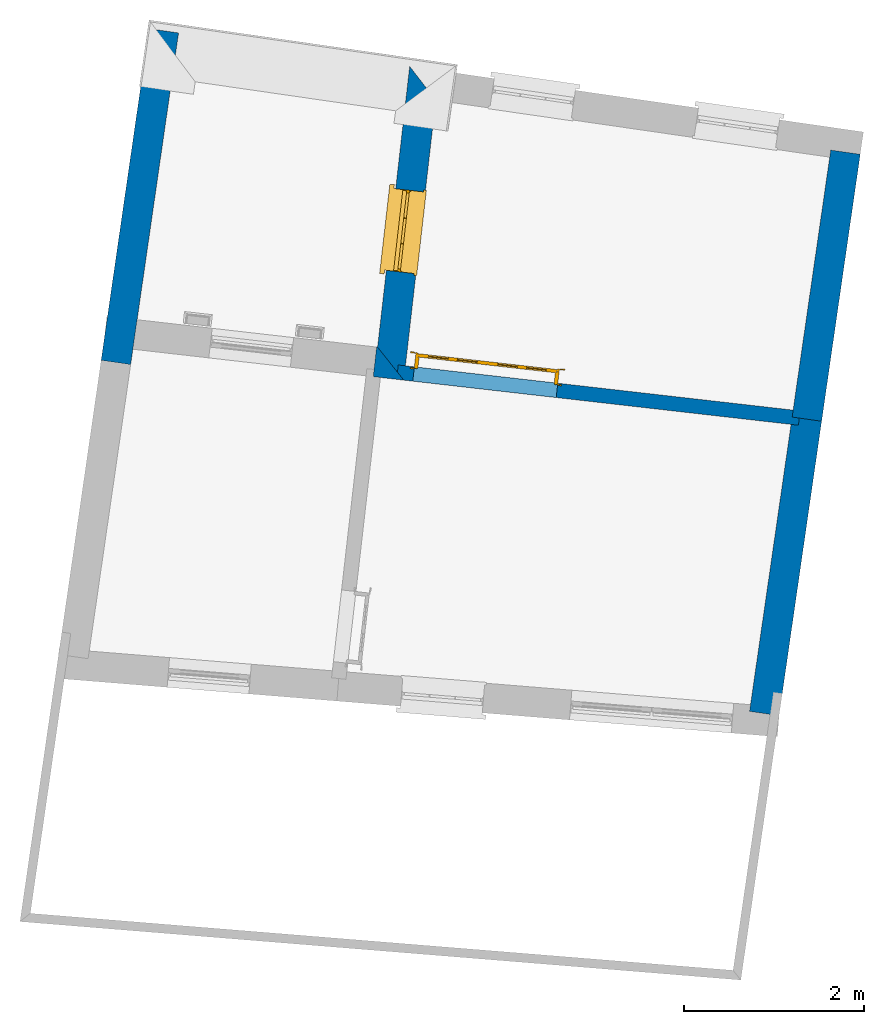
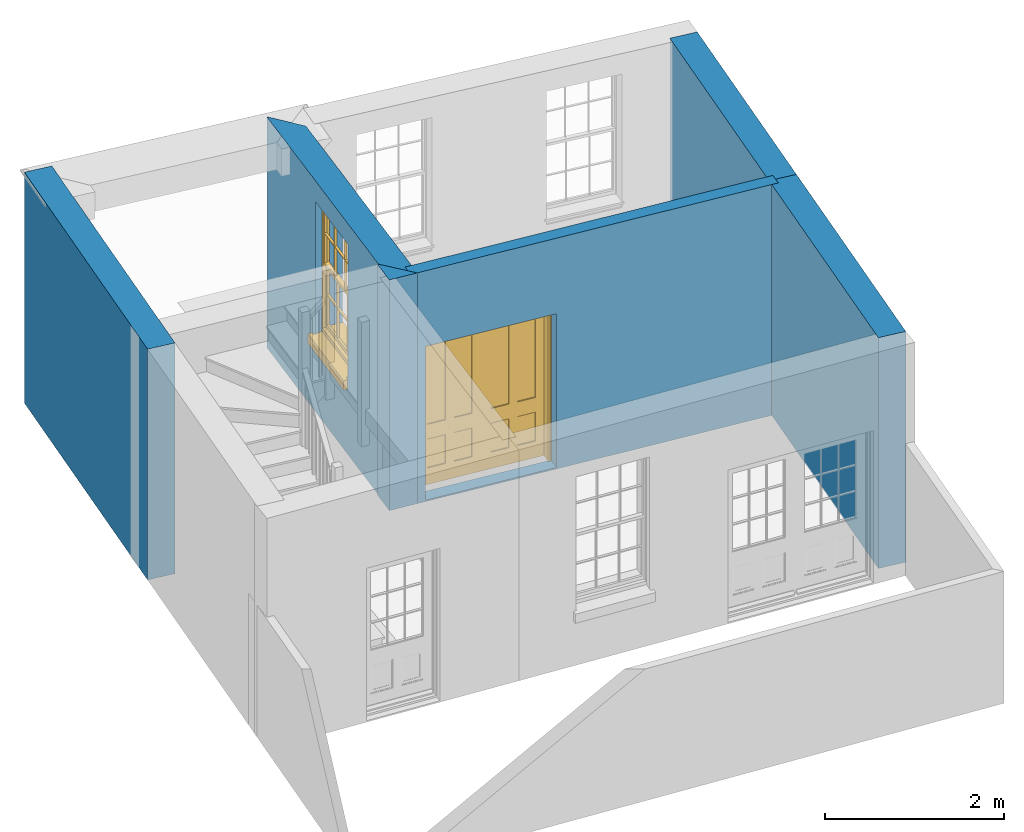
# One storey, part 6 of 8: 6 walls, 1 door, 1 window, 2 openings.
"""IFC4 building model written with IfcOpenShell, lengths in metres."""

from ifc_helpers import new_model, si_unit, frame, origin, origin_with_axes, place, context, subcontext, project, spatial, polyline, outline, extrude, faceted_brep, source, transform, mapped, material, layer, layer_set, layer_usage, type_object, type_shapes, element, fill, save


model = new_model("IFC4")

# Units and contexts
model_context = context("Model", 3, world=origin_with_axes())
body_context = subcontext(model_context, "Body", "Model", "MODEL_VIEW")
ifc_project = project(units=[si_unit("PLANEANGLEUNIT", "RADIAN"), si_unit("MASSUNIT", "GRAM", prefix="KILO"), si_unit("FORCEUNIT", "NEWTON", prefix="KILO"), si_unit("LENGTHUNIT", "METRE"), si_unit("AREAUNIT", "SQUARE_METRE"), si_unit("VOLUMEUNIT", "CUBIC_METRE")], contexts=[model_context, model_context])

# Sites, building, storey
site_1_placement = place(None, origin_with_axes())
site_1 = spatial("IfcSite", under=ifc_project, at=site_1_placement, Name="Tamar")
site_2_placement = place(site_1_placement, origin_with_axes())
site_2 = spatial("IfcSite", under=site_1, at=site_2_placement, Name="Site plot-31", CompositionType="ELEMENT")
building_placement = place(None, origin_with_axes())
building = spatial("IfcBuilding", under=site_2, at=building_placement, Name="Building plot-31", CompositionType="ELEMENT")
storey_placement = place(None, frame((0.0, 0.0, 25.5), z_axis=(0.0, 0.0, 1.0), x_axis=(1.0, 0.0, 0.0)))
storey = spatial("IfcBuildingStorey", under=building, at=storey_placement, Name="plot-31 0", CompositionType="ELEMENT", Elevation=25.5)

# Wall, opening, window
ifc_material_1 = material(Name="Masonry")
ifc_layer_1 = layer(ifc_material_1, 0.33, ventilated=False)
ifc_layer_set_1 = layer_set([ifc_layer_1], Name="exterior_0.08_0.25")
ifc_layer_usage_1 = layer_usage(ifc_layer_set_1, "AXIS2", "POSITIVE", -0.25)
wall_type_1 = type_object("IfcWallType", Name="exterior_0.08_0.25", PredefinedType="SOLIDWALL", material=ifc_layer_set_1)
wall_1_placement = place(storey_placement, frame((296.322207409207, 264.155443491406, 0.0), z_axis=(0.0, 0.0, 1.0), x_axis=(-0.113496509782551, -0.993538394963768, 0.0)))
wall_1 = element("IfcWall", 1, at=wall_1_placement, inside=storey, type_object=wall_type_1, material=ifc_layer_usage_1, Name="exterior", context=body_context, shape_type="SweptSolid", body=[
    extrude(outline(polyline([(0.0824260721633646, 0.0799999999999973), (-0.257581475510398, -0.250000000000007), (2.87558300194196, -0.249999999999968), (3.20558300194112, 0.0800000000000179), (0.0824260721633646, 0.0799999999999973)])), origin_with_axes(), (0.0, 0.0, 1.0), 3.15),
])
opening_1_placement = place(wall_1_placement, frame((1.10779150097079, 0.0, 1.05)))
opening_1 = element("IfcOpeningElement", 2, at=opening_1_placement, cuts=wall_1, Name="My Opening", ObjectType="Opening", context=body_context, shape_type="SweptSolid", body=[
    extrude(outline(polyline([(0.0, -0.270000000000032), (0.909999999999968, -0.269999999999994), (0.909999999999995, 1.1), (2.68673971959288e-14, 1.09999999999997), (0.0, -0.270000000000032)])), origin_with_axes(), (0.0, 0.0, 1.0), 1.82),
])
window_type = type_object("IfcWindowType", Name="sash_big", PartitioningType="DOUBLE_PANEL_HORIZONTAL", PredefinedType="NOTDEFINED")
shared_shape_1 = source(origin(), body_context, "Body", "Brep", [
    faceted_brep([(0.033125, 0.145, 0.975209), (0.01, 0.145, 0.975209), (0.033125, 0.145, 1.376042), (0.876875, 0.145, 0.975209), (0.876875, 0.145, 1.376042), (0.9, 0.145, 0.975209), (0.876875, 0.145, 1.386042), (0.876875, 0.145, 1.786875), (0.9, 0.145, 1.81), (0.033125, 0.145, 1.786875), (0.033125, 0.145, 1.386042), (0.01, 0.145, 1.81), (0.876875, 0.115, 1.376042), (0.876875, 0.115, 0.975209), (0.9, 0.115, 0.937083), (0.033125, 0.115, 1.786875), (0.01, 0.115, 1.81), (0.033125, 0.115, 1.386042), (0.01, 0.115, 0.937083), (0.033125, 0.115, 0.975209), (0.033125, 0.115, 1.376042), (0.876875, 0.115, 1.786875), (0.876875, 0.115, 1.386042), (0.9, 0.115, 1.81), (0.033125, 0.145, 0.937083), (0.01, 0.145, 0.937083), (0.033125, 0.145, 0.53625), (0.876875, 0.145, 0.937083), (0.876875, 0.145, 0.53625), (0.9, 0.145, 0.937083), (0.876875, 0.145, 0.52625), (0.876875, 0.145, 0.125417), (0.9, 0.145, 0.077167), (0.033125, 0.145, 0.125417), (0.033125, 0.145, 0.52625), (0.01, 0.145, 0.077167), (-0.0425, 0.0, 0.01), (-0.0425, -0.05, 0.001667), (0.0, 0.0, 0.01), (0.9525, 0.0, 0.01), (0.91, 0.0, 0.01), (0.9525, -0.05, 0.001667), (-0.02, 0.33, 0.077167), (0.0, 0.33, 0.077167), (-0.02, 0.36, 0.077167), (0.0, 0.19, 0.077167), (0.01, 0.19, 0.077167), (0.91, 0.19, 0.077167), (0.91, 0.33, 0.077167), (0.9, 0.19, 0.077167), (0.93, 0.33, 0.077167), (0.93, 0.36, 0.077167), (0.01, 0.175, 0.975209), (0.9, 0.175, 0.975209), (0.876875, 0.175, 0.125417), (0.876875, 0.175, 0.52625), (0.9, 0.175, 0.077167), (0.876875, 0.175, 0.53625), (0.876875, 0.175, 0.937083), (0.033125, 0.175, 0.125417), (0.01, 0.175, 0.077167), (0.033125, 0.175, 0.52625), (0.033125, 0.175, 0.937083), (0.033125, 0.175, 0.53625), (-0.02, 0.33, 0.052167), (-0.02, 0.36, 0.052167), (0.93, 0.36, 0.052167), (0.93, 0.33, 0.052167), (0.91, 0.33, 0.052167), (0.0, 0.33, 0.052167), (0.91, 0.1, 0.026667), (0.0, 0.1, 0.026667), (-0.0425, -0.05, -0.123333), (0.9525, -0.05, -0.123333), (-0.0425, 0.0, -0.123333), (0.9525, 0.0, -0.123333), (0.01, 0.19, 1.81), (0.9, 0.19, 1.81), (0.0, 0.19, 1.82), (0.91, 0.19, 1.82), (0.01, 0.1, 0.077167), (0.9, 0.1, 0.077167), (0.592292, 0.145, 0.125417), (0.592292, 0.175, 0.125417), (0.317708, 0.175, 0.125417), (0.317708, 0.145, 0.125417), (0.592292, 0.145, 0.53625), (0.317708, 0.145, 0.53625), (0.317708, 0.145, 0.52625), (0.592292, 0.145, 0.52625), (0.592292, 0.175, 0.53625), (0.317708, 0.175, 0.53625), (0.592292, 0.115, 1.386042), (0.592292, 0.145, 1.386042), (0.317708, 0.145, 1.386042), (0.317708, 0.115, 1.386042), (0.317708, 0.115, 1.376042), (0.592292, 0.115, 1.376042), (0.317708, 0.145, 1.376042), (0.592292, 0.145, 1.376042), (0.602292, 0.115, 1.376042), (0.592292, 0.115, 0.975209), (0.602292, 0.115, 0.975209), (0.602292, 0.145, 0.975209), (0.592292, 0.145, 0.975209), (0.602292, 0.145, 1.376042), (0.602292, 0.175, 0.53625), (0.602292, 0.145, 0.53625), (0.317708, 0.175, 0.52625), (0.307708, 0.175, 0.125417), (0.307708, 0.175, 0.52625), (0.602292, 0.175, 0.52625), (0.602292, 0.175, 0.125417), (0.592292, 0.175, 0.52625), (0.307708, 0.175, 0.53625), (0.317708, 0.175, 0.937083), (0.307708, 0.175, 0.937083), (0.602292, 0.175, 0.937083), (0.592292, 0.175, 0.937083), (0.307708, 0.145, 0.52625), (0.307708, 0.145, 0.125417), (0.307708, 0.145, 0.53625), (0.307708, 0.145, 0.937083), (0.592292, 0.145, 0.937083), (0.317708, 0.145, 0.937083), (0.602292, 0.145, 0.937083), (0.602292, 0.145, 0.52625), (0.602292, 0.145, 0.125417), (0.307708, 0.115, 1.386042), (0.307708, 0.115, 1.376042), (0.307708, 0.115, 0.975209), (0.317708, 0.115, 0.975209), (0.317708, 0.115, 1.786875), (0.307708, 0.115, 1.786875), (0.602292, 0.115, 1.786875), (0.592292, 0.115, 1.786875), (0.602292, 0.115, 1.386042), (0.602292, 0.145, 1.386042), (0.307708, 0.145, 1.386042), (0.307708, 0.145, 1.786875), (0.317708, 0.145, 1.786875), (0.592292, 0.145, 1.786875), (0.602292, 0.145, 1.786875), (0.307708, 0.145, 1.376042), (0.317708, 0.145, 0.975209), (0.307708, 0.145, 0.975209), (0.91, 0.1, 1.82), (0.9, 0.1, 1.81), (0.01, 0.1, 1.81), (0.0, 0.1, 1.82), (0.91, 0.0, 0.0), (0.0, 0.0, 0.0), (0.91, 0.33, 0.0), (0.0, 0.33, 0.0)], [[[0, 1, 2]], [[3, 4, 5]], [[6, 7, 8]], [[9, 10, 11]], [[12, 13, 14]], [[15, 16, 17]], [[18, 19, 20]], [[21, 22, 23]], [[24, 25, 26]], [[27, 28, 29]], [[30, 31, 32]], [[33, 34, 35]], [[14, 27, 29]], [[25, 24, 18]], [[36, 37, 38]], [[39, 40, 41]], [[42, 43, 44]], [[45, 46, 43]], [[47, 48, 49]], [[50, 51, 48]], [[1, 0, 52]], [[5, 53, 3]], [[54, 55, 56]], [[57, 58, 53]], [[59, 60, 61]], [[62, 63, 52]], [[48, 43, 46, 49]], [[51, 44, 43, 48]], [[64, 42, 44, 65]], [[65, 44, 51, 66]], [[66, 51, 50, 67]], [[65, 66, 68, 69]], [[60, 56, 49, 46]], [[70, 71, 38, 40]], [[37, 41, 40, 38]], [[37, 72, 73, 41]], [[74, 75, 73, 72]], [[8, 11, 76, 77]], [[76, 78, 79, 77]], [[32, 35, 80, 81]], [[81, 80, 71, 70]], [[82, 83, 84, 85]], [[86, 87, 88, 89]], [[86, 90, 91, 87]], [[92, 93, 94, 95]], [[92, 95, 96, 97]], [[96, 98, 99, 97]], [[100, 97, 101, 102]], [[103, 104, 99, 105]], [[97, 99, 104, 101]], [[102, 103, 105, 100]], [[28, 57, 106, 107]], [[108, 84, 109, 110]], [[111, 112, 83, 113]], [[114, 110, 61, 63]], [[90, 113, 108, 91]], [[115, 91, 114, 116]], [[117, 106, 90, 118]], [[111, 106, 57, 55]], [[119, 110, 109, 120]], [[34, 61, 110, 119]], [[89, 113, 83, 82]], [[88, 108, 113, 89]], [[85, 84, 108, 88]], [[121, 114, 63, 26]], [[122, 116, 114, 121]], [[123, 118, 90, 86]], [[87, 91, 115, 124]], [[107, 106, 117, 125]], [[126, 111, 55, 30]], [[127, 112, 111, 126]], [[126, 30, 28, 107]], [[88, 119, 120, 85]], [[126, 89, 82, 127]], [[125, 123, 86, 107]], [[121, 26, 34, 119]], [[124, 122, 121, 87]], [[128, 17, 20, 129]], [[96, 129, 130, 131]], [[132, 133, 128, 95]], [[134, 135, 92, 136]], [[100, 12, 22, 136]], [[137, 6, 4, 105]], [[94, 138, 139, 140]], [[137, 93, 141, 142]], [[99, 98, 94, 93]], [[143, 2, 10, 138]], [[144, 145, 143, 98]], [[129, 143, 145, 130]], [[20, 2, 143, 129]], [[131, 144, 98, 96]], [[128, 138, 10, 17]], [[133, 139, 138, 128]], [[135, 141, 93, 92]], [[95, 94, 140, 132]], [[22, 6, 137, 136]], [[136, 137, 142, 134]], [[100, 105, 4, 12]], [[107, 86, 89, 126]], [[106, 111, 113, 90]], [[91, 108, 110, 114]], [[87, 121, 119, 88]], [[97, 100, 136, 92]], [[129, 96, 95, 128]], [[98, 143, 138, 94]], [[105, 99, 93, 137]], [[131, 101, 104, 144]], [[124, 115, 118, 123]], [[132, 140, 141, 135]], [[120, 109, 59, 33]], [[15, 9, 139, 133]], [[134, 142, 7, 21]], [[31, 54, 112, 127]], [[36, 74, 72, 37]], [[39, 41, 73, 75]], [[18, 14, 101, 131]], [[23, 16, 132, 135]], [[83, 56, 60, 84]], [[52, 53, 118, 115]], [[53, 52, 144, 104]], [[11, 8, 141, 140]], [[14, 18, 124, 123]], [[2, 1, 11, 10]], [[8, 5, 4, 6]], [[57, 53, 56, 55]], [[60, 52, 63, 61]], [[26, 25, 35, 34]], [[32, 29, 28, 30]], [[14, 23, 22, 12]], [[18, 20, 17, 16]], [[19, 0, 2, 20]], [[17, 10, 9, 15]], [[12, 4, 3, 13]], [[21, 7, 6, 22]], [[27, 58, 57, 28]], [[30, 55, 54, 31]], [[33, 59, 61, 34]], [[26, 63, 62, 24]], [[5, 8, 77, 53]], [[76, 11, 1, 52]], [[46, 45, 78, 76]], [[49, 77, 79, 47]], [[70, 146, 147, 81]], [[71, 80, 148, 149]], [[19, 130, 145, 0]], [[102, 13, 3, 103]], [[116, 122, 24, 62]], [[29, 32, 81, 14]], [[80, 35, 25, 18]], [[60, 46, 76, 52]], [[77, 49, 56, 53]], [[23, 14, 81, 147]], [[16, 148, 80, 18]], [[35, 85, 120]], [[120, 33, 35]], [[127, 82, 32]], [[32, 31, 127]], [[32, 82, 85, 35]], [[102, 101, 14]], [[14, 13, 102]], [[18, 131, 130]], [[130, 19, 18]], [[134, 21, 23]], [[23, 135, 134]], [[16, 15, 133]], [[133, 132, 16]], [[11, 140, 139]], [[139, 9, 11]], [[142, 141, 8]], [[8, 7, 142]], [[23, 147, 148, 16]], [[146, 149, 148, 147]], [[52, 115, 116]], [[116, 62, 52]], [[118, 53, 117]], [[58, 117, 53]], [[27, 125, 117, 58]], [[56, 83, 112]], [[112, 54, 56]], [[109, 84, 60]], [[60, 59, 109]], [[125, 27, 14]], [[14, 123, 125]], [[122, 124, 18]], [[18, 24, 122]], [[145, 144, 52]], [[52, 0, 145]], [[103, 3, 53]], [[53, 104, 103]], [[79, 78, 149, 146]], [[78, 45, 71, 149]], [[146, 70, 47, 79]], [[150, 75, 74, 151]], [[68, 66, 67]], [[48, 68, 67, 50]], [[69, 64, 65]], [[42, 64, 69, 43]], [[69, 68, 152, 153]], [[70, 68, 48, 47]], [[150, 152, 68, 70]], [[43, 69, 71, 45]], [[69, 153, 151, 71]], [[152, 150, 151, 153]], [[38, 151, 74, 36]], [[71, 151, 38]], [[39, 75, 150, 40]], [[40, 150, 70]]]),
])
type_shapes(window_type, [shared_shape_1])
window_placement = place(storey_placement, frame((295.92822157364, 263.085454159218, 1.05), z_axis=(0.0, 0.0, 1.0), x_axis=(-0.10328182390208, -0.904119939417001, 0.0)))
window = element("IfcWindow", 3, at=window_placement, inside=storey, type_object=window_type, Name="kitchen outside window", OverallHeight=1.82, OverallWidth=0.91, context=body_context, shape_type="MappedRepresentation", body=[
    mapped(shared_shape_1, transform((0.0, 0.0, 0.0), scale=1.0)),
])
fill(opening_1, window)

# Walls
wall_2_placement = place(storey_placement, frame((295.967464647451, 261.050056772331, 0.0), z_axis=(0.0, 0.0, 1.0), x_axis=(-0.993538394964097, 0.113496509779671, 0.0)))
element("IfcWall", 4, at=wall_2_placement, inside=storey, type_object=wall_type_1, material=ifc_layer_usage_1, Name="exterior", context=body_context, shape_type="SweptSolid", body=[
    extrude(outline(polyline([(-0.0799999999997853, 0.0799999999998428), (0.249999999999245, -0.250000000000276), (0.260967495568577, -0.250000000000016), (0.260967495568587, 0.0799999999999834), (-0.0799999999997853, 0.0799999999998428)])), origin_with_axes(), (0.0, 0.0, 1.0), 3.15),
])
ifc_material_2 = material(Name="Masonry")
ifc_layer_2 = layer(ifc_material_2, 0.33, ventilated=False)
ifc_layer_set_2 = layer_set([ifc_layer_2], Name="party_0.08_0.25")
ifc_layer_usage_2 = layer_usage(ifc_layer_set_2, "AXIS2", "POSITIVE", -0.25)
wall_type_2 = type_object("IfcWallType", Name="party_0.08_0.25", PredefinedType="SOLIDWALL", material=ifc_layer_set_2)
wall_3_placement = place(storey_placement, frame((299.949821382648, 257.278429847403, 0.0), z_axis=(0.0, 0.0, 1.0), x_axis=(0.143119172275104, 0.989705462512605, 0.0)))
element("IfcWall", 5, at=wall_3_placement, inside=storey, type_object=wall_type_2, material=ifc_layer_usage_2, Name="party", context=body_context, shape_type="SweptSolid", body=[
    extrude(outline(polyline([(2.42074388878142e-15, 0.0800000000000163), (-2.2744263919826e-14, -0.249999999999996), (3.29674323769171, -0.249999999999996), (3.29674323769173, 0.080000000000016), (2.42074388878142e-15, 0.0800000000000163)])), origin_with_axes(), (0.0, 0.0, 1.0), 3.15),
])
wall_4_placement = place(storey_placement, frame((300.42164854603, 260.541234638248, 0.0), z_axis=(0.0, 0.0, 1.0), x_axis=(0.143119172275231, 0.989705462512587, 0.0)))
element("IfcWall", 6, at=wall_4_placement, inside=storey, type_object=wall_type_2, material=ifc_layer_usage_2, Name="party", context=body_context, shape_type="SweptSolid", body=[
    extrude(outline(polyline([(-7.7933079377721e-15, 0.0800000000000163), (9.17464803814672e-15, -0.249999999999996), (2.99029362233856, -0.249999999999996), (2.99029362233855, 0.0800000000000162), (-7.7933079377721e-15, 0.0800000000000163)])), origin_with_axes(), (0.0, 0.0, 1.0), 3.15),
])
wall_5_placement = place(storey_placement, frame((293.426825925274, 264.574138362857, 0.0), z_axis=(0.0, 0.0, 1.0), x_axis=(-0.143119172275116, -0.989705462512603, 0.0)))
element("IfcWall", 7, at=wall_5_placement, inside=storey, type_object=wall_type_2, material=ifc_layer_usage_2, Name="party", context=body_context, shape_type="SweptSolid", body=[
    extrude(outline(polyline([(-0.249999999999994, 0.080000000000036), (-0.250000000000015, -0.249999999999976), (3.46439066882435, -0.250000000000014), (3.46439066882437, 0.0799999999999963), (-0.249999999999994, 0.080000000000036)])), origin_with_axes(), (0.0, 0.0, 1.0), 3.15),
])

# Wall, opening, door
ifc_material_3 = material(Name="Masonry")
ifc_layer_3 = layer(ifc_material_3, 0.16, ventilated=False)
ifc_layer_set_3 = layer_set([ifc_layer_3], Name="interior_0.08_0.08")
ifc_layer_usage_3 = layer_usage(ifc_layer_set_3, "AXIS2", "POSITIVE", -0.08)
wall_type_3 = type_object("IfcWallType", Name="interior_0.08_0.08", PredefinedType="SOLIDWALL", material=ifc_layer_set_3)
wall_6_placement = place(storey_placement, frame((295.967464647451, 261.050056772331, 0.0), z_axis=(0.0, 0.0, 1.0), x_axis=(0.993538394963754, -0.113496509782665, 0.0)))
wall_6 = element("IfcWall", 8, at=wall_6_placement, inside=storey, type_object=wall_type_3, material=ifc_layer_usage_3, Name="interior", context=body_context, shape_type="SweptSolid", body=[
    extrude(outline(polyline([(-5.73273400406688e-15, 0.0800000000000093), (5.66964612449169e-15, -0.0800000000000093), (4.48315225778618, -0.0800000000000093), (4.48315225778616, 0.0800000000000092), (-5.73273400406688e-15, 0.0800000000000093)])), origin_with_axes(), (0.0, 0.0, 1.0), 3.15),
])
opening_2_placement = place(wall_6_placement, frame((0.179999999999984, 0.0, 0.0199999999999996)))
opening_2 = element("IfcOpeningElement", 9, at=opening_2_placement, cuts=wall_6, Name="My Opening", ObjectType="Opening", context=body_context, shape_type="SweptSolid", body=[
    extrude(outline(polyline([(0.0, -0.0999999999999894), (1.60000000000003, -0.100000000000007), (1.60000000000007, 1.09999999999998), (4.62407889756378e-14, 1.09999999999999), (0.0, -0.0999999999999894)])), origin_with_axes(), (0.0, 0.0, 1.0), 2.1),
])
door_type = type_object("IfcDoorType", Name="door_inside_double", OperationType="SINGLE_SWING_LEFT", PredefinedType="NOTDEFINED")
shared_shape_2 = source(origin(), body_context, "Body", "Brep", [
    faceted_brep([(0.14, 0.307, 1.895), (0.14, 0.307, 0.82), (0.363, 0.307, 0.82), (0.363, 0.307, 1.895), (0.14, 0.292, 1.895), (0.14, 0.292, 0.82), (0.363, 0.292, 0.82), (0.363, 0.292, 1.895), (0.027, 0.292, 1.895), (0.027, 0.292, 0.82), (0.363, 0.292, 0.62), (0.14, 0.292, 0.62), (0.463, 0.292, 0.82), (0.463, 0.292, 1.895), (0.363, 0.292, 2.073), (0.14, 0.292, 2.073), (0.027, 0.292, 2.073), (0.027, 0.33, 1.895), (0.027, 0.33, 0.82), (0.027, 0.292, 0.62), (0.463, 0.292, 0.62), (0.14, 0.307, 0.62), (0.363, 0.307, 0.62), (0.463, 0.307, 0.82), (0.463, 0.307, 1.895), (0.463, 0.292, 2.073), (0.14, 0.33, 2.073), (0.363, 0.33, 2.073), (0.027, 0.33, 2.073), (0.14, 0.33, 1.895), (0.14, 0.33, 0.82), (0.027, 0.33, 0.62), (0.027, 0.292, 0.225), (0.14, 0.292, 0.225), (0.363, 0.292, 0.225), (0.463, 0.292, 0.225), (0.686, 0.292, 0.62), (0.686, 0.292, 0.82), (0.14, 0.307, 0.225), (0.363, 0.307, 0.225), (0.686, 0.307, 0.82), (0.686, 0.307, 1.895), (0.686, 0.292, 1.895), (0.686, 0.292, 2.073), (0.463, 0.33, 2.073), (0.363, 0.33, 1.895), (0.14, 0.315, 1.895), (0.14, 0.315, 0.82), (0.14, 0.33, 0.62), (0.027, 0.33, 0.225), (0.027, 0.292, 0.0), (0.14, 0.292, 0.0), (0.363, 0.292, 0.0), (0.463, 0.292, 0.0), (0.463, 0.307, 0.225), (0.463, 0.307, 0.62), (0.686, 0.307, 0.62), (0.799, 0.292, 0.62), (0.799, 0.292, 0.82), (0.799, 0.292, 1.895), (0.799, 0.292, 2.073), (0.686, 0.33, 2.073), (0.463, 0.33, 1.895), (0.363, 0.315, 1.895), (0.363, 0.315, 0.82), (0.363, 0.33, 0.82), (0.363, 0.33, 0.62), (0.14, 0.33, 0.225), (0.027, 0.33, 0.0), (0.14, 0.33, 0.0), (0.363, 0.33, 0.0), (0.463, 0.33, 0.0), (0.686, 0.292, 0.0), (0.686, 0.292, 0.225), (0.686, 0.307, 0.225), (0.799, 0.292, 0.225), (0.799, 0.33, 0.62), (0.799, 0.33, 0.82), (0.799, 0.33, 1.895), (0.799, 0.33, 2.073), (0.686, 0.33, 1.895), (0.463, 0.33, 0.82), (0.463, 0.33, 0.62), (0.363, 0.315, 0.62), (0.14, 0.315, 0.62), (0.14, 0.315, 0.225), (0.363, 0.33, 0.225), (0.463, 0.33, 0.225), (0.686, 0.33, 0.0), (0.799, 0.292, 0.0), (0.799, 0.33, 0.225), (0.686, 0.33, 0.62), (0.686, 0.33, 0.82), (0.686, 0.315, 1.895), (0.463, 0.315, 1.895), (0.463, 0.315, 0.82), (0.363, 0.315, 0.225), (0.686, 0.33, 0.225), (0.799, 0.33, 0.0), (0.686, 0.315, 0.82), (0.463, 0.315, 0.62), (0.463, 0.315, 0.225), (0.686, 0.315, 0.62), (0.686, 0.315, 0.225), (1.46, 0.33, 1.895), (1.237, 0.33, 1.895), (1.237, 0.33, 2.073), (1.46, 0.33, 2.073), (1.46, 0.315, 1.895), (1.237, 0.315, 1.895), (1.137, 0.33, 1.895), (1.137, 0.33, 2.073), (1.237, 0.292, 2.073), (1.46, 0.292, 2.073), (1.573, 0.33, 1.895), (1.573, 0.33, 2.073), (1.46, 0.33, 0.82), (1.46, 0.315, 0.82), (1.237, 0.315, 0.82), (1.237, 0.33, 0.82), (1.137, 0.33, 0.82), (0.914, 0.33, 2.073), (0.914, 0.33, 1.895), (1.137, 0.292, 2.073), (1.237, 0.292, 1.895), (1.46, 0.292, 1.895), (1.573, 0.292, 2.073), (1.573, 0.33, 0.82), (1.573, 0.292, 1.895), (1.237, 0.33, 0.62), (1.137, 0.33, 0.62), (1.137, 0.315, 0.82), (1.137, 0.315, 1.895), (0.914, 0.292, 2.073), (0.914, 0.315, 1.895), (0.801, 0.33, 2.073), (0.801, 0.33, 1.895), (1.137, 0.292, 1.895), (1.237, 0.307, 1.895), (1.46, 0.307, 1.895), (1.573, 0.292, 0.82), (1.573, 0.33, 0.62), (1.46, 0.33, 0.62), (1.237, 0.33, 0.225), (1.137, 0.33, 0.225), (0.914, 0.33, 0.82), (0.914, 0.33, 0.62), (0.914, 0.315, 0.82), (0.801, 0.292, 2.073), (0.914, 0.292, 1.895), (0.801, 0.33, 0.82), (0.801, 0.292, 1.895), (1.137, 0.292, 0.82), (1.237, 0.292, 0.82), (1.237, 0.307, 0.82), (1.46, 0.307, 0.82), (1.46, 0.292, 0.82), (1.573, 0.292, 0.62), (1.573, 0.33, 0.225), (1.46, 0.33, 0.225), (1.46, 0.315, 0.62), (1.237, 0.315, 0.62), (1.237, 0.33, 0.0), (1.137, 0.33, 0.0), (1.137, 0.315, 0.225), (1.137, 0.315, 0.62), (1.237, 0.315, 0.225), (0.914, 0.315, 0.62), (0.801, 0.33, 0.62), (0.914, 0.307, 1.895), (1.137, 0.307, 1.895), (0.801, 0.292, 0.82), (1.137, 0.292, 0.62), (1.237, 0.292, 0.62), (1.137, 0.307, 0.82), (1.46, 0.292, 0.62), (1.573, 0.292, 0.225), (1.573, 0.33, 0.0), (1.46, 0.33, 0.0), (1.46, 0.315, 0.225), (1.237, 0.292, 0.0), (1.137, 0.292, 0.0), (0.914, 0.33, 0.225), (0.914, 0.33, 0.0), (0.914, 0.315, 0.225), (0.801, 0.33, 0.225), (0.801, 0.292, 0.62), (0.914, 0.292, 0.82), (0.914, 0.307, 0.82), (1.137, 0.292, 0.225), (1.237, 0.292, 0.225), (0.914, 0.292, 0.62), (1.46, 0.292, 0.225), (1.573, 0.292, 0.0), (1.46, 0.292, 0.0), (0.914, 0.292, 0.0), (0.801, 0.33, 0.0), (0.801, 0.292, 0.225), (1.237, 0.307, 0.225), (1.237, 0.307, 0.62), (1.137, 0.307, 0.62), (1.137, 0.307, 0.225), (1.46, 0.307, 0.62), (0.914, 0.307, 0.62), (1.46, 0.307, 0.225), (0.914, 0.292, 0.225), (0.801, 0.292, 0.0), (0.914, 0.307, 0.225), (0.02, 0.335, 0.0), (0.005, 0.34, 0.0), (0.005, 0.34, 2.095), (0.02, 0.335, 2.08), (0.02, 0.33, 0.0), (0.0, 0.335, 0.0), (0.0, 0.335, 2.1), (1.595, 0.34, 2.095), (1.58, 0.335, 2.08), (0.02, 0.33, 2.08), (0.0, 0.33, 0.0), (-0.032, 0.345, 0.0), (-0.032, 0.345, 2.132), (1.6, 0.335, 2.1), (1.595, 0.34, 0.0), (1.58, 0.335, 0.0), (1.58, 0.33, 2.08), (0.025, 0.33, 0.0), (0.025, 0.33, 2.075), (-0.04, 0.34, 0.0), (0.025, 0.29, 0.0), (0.0, 0.17, 0.0), (-0.04, 0.34, 2.14), (1.632, 0.345, 2.132), (1.6, 0.335, 0.0), (1.58, 0.33, 0.0), (1.575, 0.33, 2.075), (0.025, 0.29, 2.075), (-0.06, 0.33, 0.0), (0.035, 0.17, 0.0), (0.0, 0.17, 2.1), (0.0, 0.33, 2.1), (-0.04, 0.345, 0.0), (-0.04, 0.345, 2.14), (1.64, 0.34, 2.14), (1.632, 0.345, 0.0), (1.6, 0.33, 0.0), (1.575, 0.33, 0.0), (1.575, 0.29, 2.075), (0.04, 0.29, 0.0), (0.04, 0.29, 2.06), (-0.06, 0.345, 0.0), (-0.06, 0.33, 2.16), (0.015, 0.165, 0.0), (0.04, 0.17, 0.0), (-0.045, 0.17, 2.145), (-0.045, 0.17, 0.0), (1.6, 0.17, 2.1), (1.6, 0.33, 2.1), (-0.06, 0.345, 2.16), (1.64, 0.345, 2.14), (1.64, 0.34, 0.0), (1.6, 0.17, 0.0), (1.575, 0.29, 0.0), (1.56, 0.29, 2.06), (0.04, 0.17, 2.06), (1.66, 0.33, 2.16), (-0.017, 0.155, 0.0), (-0.025, 0.16, 0.0), (0.02, 0.16, 0.0), (0.035, 0.165, 0.0), (0.035, 0.17, 2.065), (1.645, 0.17, 2.145), (-0.045, 0.155, 2.145), (-0.045, 0.155, 0.0), (1.66, 0.345, 2.16), (1.64, 0.345, 0.0), (1.66, 0.33, 0.0), (1.565, 0.17, 0.0), (1.56, 0.29, 0.0), (1.56, 0.17, 2.06), (-0.017, 0.155, 2.117), (-0.025, 0.16, 2.125), (0.015, 0.165, 2.085), (0.02, 0.16, 2.08), (0.035, 0.165, 2.065), (1.565, 0.17, 2.065), (1.645, 0.17, 0.0), (1.645, 0.155, 2.145), (-0.025, 0.155, 0.0), (1.66, 0.345, 0.0), (1.585, 0.165, 0.0), (1.56, 0.17, 0.0), (1.617, 0.155, 2.117), (1.625, 0.16, 2.125), (-0.025, 0.155, 2.125), (1.585, 0.165, 2.085), (1.58, 0.16, 2.08), (1.565, 0.165, 2.065), (1.625, 0.16, 0.0), (1.645, 0.155, 0.0), (1.625, 0.155, 2.125), (1.617, 0.155, 0.0), (1.565, 0.165, 0.0), (1.58, 0.16, 0.0), (1.625, 0.155, 0.0)], [[[0, 1, 2, 3]], [[1, 0, 4, 5]], [[2, 1, 5, 6]], [[6, 7, 3, 2]], [[7, 4, 0, 3]], [[4, 8, 9, 5]], [[10, 6, 5, 11]], [[6, 12, 13, 7]], [[14, 15, 4, 7]], [[15, 16, 8, 4]], [[9, 8, 17, 18]], [[5, 9, 19, 11]], [[10, 20, 12, 6]], [[10, 11, 21, 22]], [[13, 12, 23, 24]], [[7, 13, 25, 14]], [[26, 15, 14, 27]], [[28, 16, 15, 26]], [[8, 16, 28, 17]], [[17, 29, 30, 18]], [[18, 31, 19, 9]], [[11, 19, 32, 33]], [[34, 35, 20, 10]], [[20, 36, 37, 12]], [[11, 33, 38, 21]], [[39, 22, 21, 38]], [[34, 10, 22, 39]], [[12, 37, 40, 23]], [[24, 23, 40, 41]], [[42, 13, 24, 41]], [[13, 42, 43, 25]], [[14, 25, 44, 27]], [[26, 27, 45, 29]], [[28, 26, 29, 17]], [[30, 29, 46, 47]], [[18, 30, 48, 31]], [[31, 49, 32, 19]], [[33, 32, 50, 51]], [[52, 53, 35, 34]], [[20, 35, 54, 55]], [[36, 20, 55, 56]], [[36, 57, 58, 37]], [[33, 34, 39, 38]], [[37, 42, 41, 40]], [[42, 59, 60, 43]], [[44, 25, 43, 61]], [[62, 45, 27, 44]], [[29, 45, 63, 46]], [[46, 63, 64, 47]], [[65, 30, 47, 64]], [[30, 65, 66, 48]], [[31, 48, 67, 49]], [[68, 50, 32, 49]], [[68, 69, 51, 50]], [[34, 33, 51, 52]], [[53, 52, 70, 71]], [[53, 72, 73, 35]], [[35, 73, 74, 54]], [[55, 54, 74, 56]], [[73, 36, 56, 74]], [[73, 75, 57, 36]], [[57, 76, 77, 58]], [[37, 58, 59, 42]], [[78, 79, 60, 59]], [[60, 79, 61, 43]], [[80, 62, 44, 61]], [[81, 65, 45, 62]], [[45, 65, 64, 63]], [[82, 66, 65, 81]], [[48, 66, 83, 84]], [[67, 48, 84, 85]], [[49, 67, 69, 68]], [[52, 51, 69, 70]], [[71, 70, 86, 87]], [[72, 53, 71, 88]], [[72, 89, 75, 73]], [[75, 90, 76, 57]], [[76, 91, 92, 77]], [[78, 59, 58, 77]], [[78, 80, 61, 79]], [[62, 80, 93, 94]], [[81, 62, 94, 95]], [[87, 86, 66, 82]], [[91, 82, 81, 92]], [[66, 86, 96, 83]], [[84, 83, 96, 85]], [[86, 67, 85, 96]], [[67, 86, 70, 69]], [[88, 71, 87, 97]], [[89, 72, 88, 98]], [[89, 98, 90, 75]], [[90, 97, 91, 76]], [[80, 78, 77, 92]], [[80, 92, 99, 93]], [[99, 95, 94, 93]], [[92, 81, 95, 99]], [[87, 82, 100, 101]], [[82, 91, 102, 100]], [[97, 87, 101, 103]], [[98, 88, 97, 90]], [[91, 97, 103, 102]], [[103, 101, 100, 102]], [[104, 105, 106, 107]], [[105, 104, 108, 109]], [[105, 110, 111, 106]], [[106, 112, 113, 107]], [[114, 104, 107, 115]], [[104, 116, 117, 108]], [[117, 118, 109, 108]], [[119, 105, 109, 118]], [[119, 120, 110, 105]], [[121, 111, 110, 122]], [[123, 112, 106, 111]], [[124, 125, 113, 112]], [[126, 115, 107, 113]], [[104, 114, 127, 116]], [[114, 115, 126, 128]], [[116, 119, 118, 117]], [[129, 130, 120, 119]], [[110, 120, 131, 132]], [[121, 133, 123, 111]], [[122, 110, 132, 134]], [[135, 121, 122, 136]], [[137, 124, 112, 123]], [[125, 124, 138, 139]], [[125, 128, 126, 113]], [[114, 128, 140, 127]], [[141, 142, 116, 127]], [[142, 129, 119, 116]], [[143, 144, 130, 129]], [[145, 120, 130, 146]], [[120, 145, 147, 131]], [[134, 132, 131, 147]], [[135, 148, 133, 121]], [[123, 133, 149, 137]], [[145, 122, 134, 147]], [[136, 122, 145, 150]], [[151, 148, 135, 136]], [[152, 153, 124, 137]], [[124, 153, 154, 138]], [[138, 154, 155, 139]], [[156, 125, 139, 155]], [[156, 140, 128, 125]], [[157, 141, 127, 140]], [[158, 159, 142, 141]], [[129, 142, 160, 161]], [[162, 163, 144, 143]], [[130, 144, 164, 165]], [[143, 129, 161, 166]], [[146, 130, 165, 167]], [[150, 145, 146, 168]], [[133, 148, 151, 149]], [[137, 149, 169, 170]], [[171, 151, 136, 150]], [[172, 173, 153, 152]], [[152, 137, 170, 174]], [[153, 156, 155, 154]], [[175, 157, 140, 156]], [[176, 158, 141, 157]], [[177, 178, 159, 158]], [[142, 159, 179, 160]], [[179, 166, 161, 160]], [[180, 181, 163, 162]], [[182, 144, 163, 183]], [[178, 162, 143, 159]], [[144, 182, 184, 164]], [[167, 165, 164, 184]], [[159, 143, 166, 179]], [[182, 146, 167, 184]], [[168, 146, 182, 185]], [[150, 168, 186, 171]], [[149, 151, 171, 187]], [[149, 187, 188, 169]], [[169, 188, 174, 170]], [[189, 190, 173, 172]], [[173, 175, 156, 153]], [[172, 152, 187, 191]], [[187, 152, 174, 188]], [[192, 176, 157, 175]], [[193, 177, 158, 176]], [[193, 194, 178, 177]], [[181, 180, 190, 189]], [[181, 195, 183, 163]], [[194, 180, 162, 178]], [[185, 182, 183, 196]], [[168, 185, 197, 186]], [[187, 171, 186, 191]], [[173, 190, 198, 199]], [[189, 172, 200, 201]], [[175, 173, 199, 202]], [[172, 191, 203, 200]], [[194, 193, 176, 192]], [[192, 175, 202, 204]], [[180, 194, 192, 190]], [[189, 205, 195, 181]], [[196, 183, 195, 206]], [[196, 206, 197, 185]], [[191, 186, 197, 205]], [[190, 192, 204, 198]], [[199, 198, 204, 202]], [[201, 200, 203, 207]], [[205, 189, 201, 207]], [[191, 205, 207, 203]], [[205, 197, 206, 195]], [[208, 209, 210, 211]], [[208, 212, 213, 209]], [[209, 213, 214, 210]], [[211, 210, 215, 216]], [[211, 217, 212, 208]], [[218, 213, 212]], [[213, 219, 220, 214]], [[210, 214, 221, 215]], [[216, 215, 222, 223]], [[217, 211, 216, 224]], [[225, 212, 217, 226]], [[219, 213, 218, 227]], [[218, 212, 228, 229]], [[219, 227, 230, 220]], [[214, 220, 231, 221]], [[215, 221, 232, 222]], [[222, 232, 233, 223]], [[224, 216, 223, 233]], [[226, 217, 224, 234]], [[225, 228, 212]], [[235, 228, 225, 226]], [[236, 227, 218]], [[237, 229, 228]], [[229, 238, 239, 218]], [[227, 240, 241, 230]], [[220, 230, 242, 231]], [[221, 231, 243, 232]], [[244, 233, 232]], [[234, 224, 233, 245]], [[246, 235, 226, 234]], [[247, 228, 235, 248]], [[240, 227, 236, 249]], [[239, 250, 236, 218]], [[251, 229, 237]], [[252, 237, 228, 247]], [[253, 238, 229, 254]], [[238, 255, 256, 239]], [[241, 240, 257]], [[230, 241, 258, 242]], [[231, 242, 259, 243]], [[259, 244, 232, 243]], [[260, 261, 233, 244]], [[245, 233, 261]], [[261, 246, 234, 245]], [[248, 235, 246, 262]], [[248, 263, 252, 247]], [[250, 257, 249, 236]], [[240, 249, 257]], [[256, 264, 250, 239]], [[265, 266, 229, 251]], [[267, 251, 237, 268]], [[263, 269, 237, 252]], [[270, 255, 238, 253]], [[229, 266, 254]], [[271, 253, 254, 272]], [[256, 255, 260, 244]], [[273, 241, 257]], [[273, 258, 241]], [[242, 258, 274, 259]], [[275, 244, 259]], [[260, 276, 261]], [[261, 277, 262, 246]], [[262, 278, 263, 248]], [[264, 273, 257, 250]], [[244, 275, 264, 256]], [[266, 265, 279, 280]], [[265, 251, 281, 279]], [[251, 267, 282, 281]], [[269, 283, 268, 237]], [[267, 268, 283, 282]], [[278, 284, 269, 263]], [[285, 260, 255, 270]], [[286, 270, 253, 271]], [[272, 254, 266, 287]], [[271, 272, 287]], [[273, 274, 258]], [[288, 275, 259, 274]], [[276, 260, 289]], [[277, 261, 276, 290]], [[278, 262, 277, 290]], [[275, 288, 273, 264]], [[280, 279, 291, 292]], [[287, 266, 280, 293]], [[279, 281, 294, 291]], [[281, 282, 295, 294]], [[284, 296, 283, 269]], [[282, 283, 296, 295]], [[290, 276, 284, 278]], [[285, 297, 260]], [[298, 285, 270, 286]], [[299, 286, 271]], [[271, 287, 293]], [[273, 288, 274]], [[300, 289, 260, 297]], [[301, 276, 289, 302]], [[292, 291, 300, 297]], [[293, 280, 292, 299]], [[291, 294, 289, 300]], [[294, 295, 302, 289]], [[296, 284, 276, 301]], [[295, 296, 301, 302]], [[303, 297, 285, 298]], [[299, 298, 286]], [[271, 293, 299]], [[299, 292, 297, 303]], [[299, 303, 298]]]),
])
type_shapes(door_type, [shared_shape_2])
door_placement = place(storey_placement, frame((296.134951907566, 260.930273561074, 0.0199999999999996), z_axis=(0.0, 0.0, 1.0), x_axis=(1.58966143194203, -0.181594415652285, 0.0)))
door = element("IfcDoor", 10, at=door_placement, inside=storey, type_object=door_type, Name="kitchen living inside door", OverallHeight=2.1, OverallWidth=1.6, context=body_context, shape_type="MappedRepresentation", body=[
    mapped(shared_shape_2, transform((0.0, 0.0, 0.0), scale=1.0)),
])
fill(opening_2, door)

save(model, "model.ifc")
